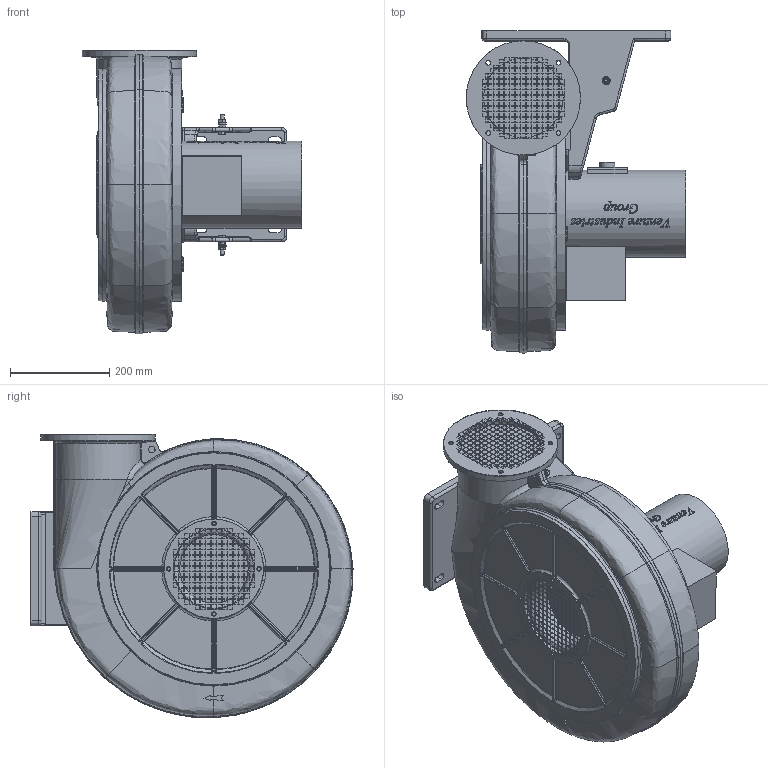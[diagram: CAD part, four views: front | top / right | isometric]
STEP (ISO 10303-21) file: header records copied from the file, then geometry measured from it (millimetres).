
FILE_DESCRIPTION(/* description */ (''),/* implementation_level */ '2;1');
FILE_NAME(/* name */ 'E:\Mariusz\Modele uproszczone\EBA\EBA 220\EBA_X_220X LG270 45519500\EBA_X_220X LG270 45519500.stp',/* time_stamp */ '2020-01-30T13:04:24+01:00',/* author */ ('M.Janczarek'),/* organization */ (''),/* preprocessor_version */ 'ST-DEVELOPER v16.13',/* originating_system */ 'Autodesk Inventor 2018',/* authorisation */ '');
FILE_SCHEMA (('AUTOMOTIVE_DESIGN { 1 0 10303 214 3 1 1 }'));
Products named in the file (1): EBA_X_220X LG270 45519500
Bounding box: 441.79 x 648.1 x 571 mm (x, y, z)
Volume: 50983219.2 mm3; surface area: 1551887 mm2
Topology: 1 solids, 1 shells, 3313 faces, 9350 edges, 6023 vertices
Faces by surface type: plane 2034, bspline 798, cylinder 265, cone 85, torus 79, sphere 52
Full cylindrical faces by diameter (mm): 6.647 x5, 8 x4, 8.4 x2, 9.2 x8, 9.5 x4, 11.4 x3, 15 x1, 15.2 x1, 16 x4, 30 x1, 160 x1, 162 x1, 175.6 x1, 200 x2, 230 x2, 467 x1, 468 x2
Entity records: 131169 total; most frequent: CARTESIAN_POINT 46281, ORIENTED_EDGE 18482, DIRECTION 14102, EDGE_CURVE 9241, LINE 6434, VECTOR 6434, VERTEX_POINT 6004, EDGE_LOOP 4183
